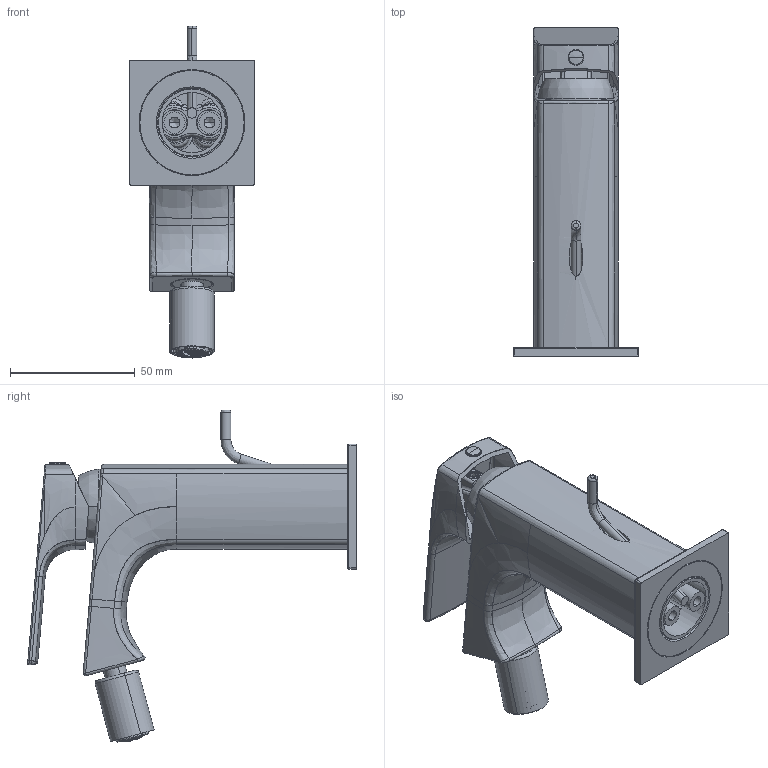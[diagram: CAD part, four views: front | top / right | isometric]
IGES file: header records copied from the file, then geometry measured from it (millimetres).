
Start section:  PTC IGES file: 75103_sw0001.igs
Global section: file name: 75103_sw0001.igs; native system: Creo Parametric by PTC Inc.; preprocessor: 2022014; author: volponeff; organization: Unknown; date: 20241007.100126; units: millimetre
Bounding box: 50 x 131.54 x 132.85 mm (x, y, z)
Surface area: 71396.6 mm2 (no closed solid volume)
Topology: 0 solids, 0 shells, 3798 faces, 21307 edges, 21224 vertices
Faces by surface type: bspline 2381, revolution 1414, extrusion 3
